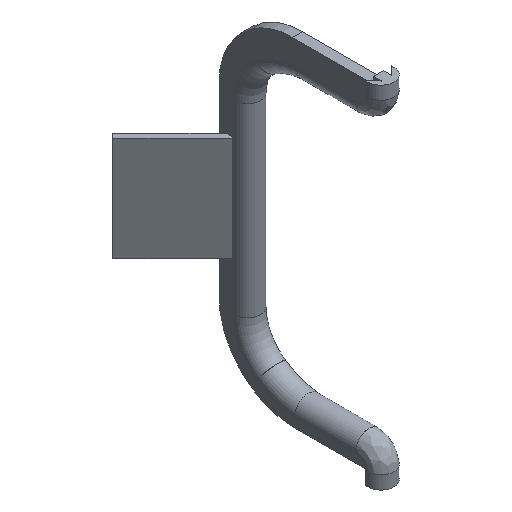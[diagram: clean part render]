
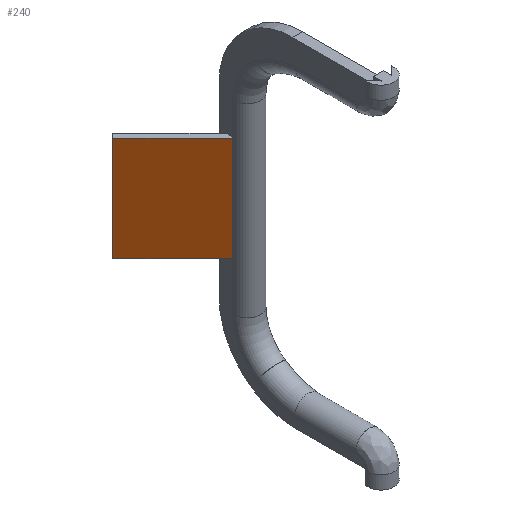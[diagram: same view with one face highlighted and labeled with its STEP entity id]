
A CAD part, isometric view. The second image highlights one B-rep face of the part: STEP entity #240.
In plain terms, the highlighted planar face has unit normal (-0.707, -0.707, 0).
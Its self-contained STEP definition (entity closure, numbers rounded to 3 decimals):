
#240 = ADVANCED_FACE( '', ( #504 ), #505, .T. );
#504 = FACE_OUTER_BOUND( '', #813, .T. );
#505 = PLANE( '', #814 );
#813 = EDGE_LOOP( '', ( #1508, #1509, #1510, #1511 ) );
#814 = AXIS2_PLACEMENT_3D( '', #1512, #1513, #1514 );
#1508 = ORIENTED_EDGE( '', *, *, #2066, .F. );
#1509 = ORIENTED_EDGE( '', *, *, #2128, .F. );
#1510 = ORIENTED_EDGE( '', *, *, #1845, .T. );
#1511 = ORIENTED_EDGE( '', *, *, #2081, .T. );
#1512 = CARTESIAN_POINT( '', ( -13.162, 42.427, 24.56 ) );
#1513 = DIRECTION( '', ( -0.707, -0.707, 0. ) );
#1514 = DIRECTION( '', ( 0.707, -0.707, 0. ) );
#1845 = EDGE_CURVE( '', #2197, #2201, #2203, .T. );
#2066 = EDGE_CURVE( '', #2571, #2573, #2574, .T. );
#2081 = EDGE_CURVE( '', #2201, #2573, #2593, .T. );
#2128 = EDGE_CURVE( '', #2197, #2571, #2654, .T. );
#2197 = VERTEX_POINT( '', #2725 );
#2201 = VERTEX_POINT( '', #2731 );
#2203 = LINE( '', #2734, #2735 );
#2571 = VERTEX_POINT( '', #3319 );
#2573 = VERTEX_POINT( '', #3322 );
#2574 = LINE( '', #3323, #3324 );
#2593 = LINE( '', #3358, #3359 );
#2654 = LINE( '', #3447, #3448 );
#2725 = CARTESIAN_POINT( '', ( -13.162, 42.427, 24.56 ) );
#2731 = CARTESIAN_POINT( '', ( -1., 30.265, 24.56 ) );
#2734 = CARTESIAN_POINT( '', ( -13.162, 42.427, 24.56 ) );
#2735 = VECTOR( '', #3613, 1000. );
#3319 = CARTESIAN_POINT( '', ( -13.162, 42.427, 45.36 ) );
#3322 = CARTESIAN_POINT( '', ( -1., 30.265, 45.36 ) );
#3323 = CARTESIAN_POINT( '', ( -13.162, 42.427, 45.36 ) );
#3324 = VECTOR( '', #3896, 1000. );
#3358 = CARTESIAN_POINT( '', ( -1., 30.265, 24.56 ) );
#3359 = VECTOR( '', #3908, 1000. );
#3447 = CARTESIAN_POINT( '', ( -13.162, 42.427, 24.56 ) );
#3448 = VECTOR( '', #3954, 1000. );
#3613 = DIRECTION( '', ( 0.707, -0.707, 0. ) );
#3896 = DIRECTION( '', ( 0.707, -0.707, 0. ) );
#3908 = DIRECTION( '', ( 0., 0., 1. ) );
#3954 = DIRECTION( '', ( 0., 0., 1. ) );
